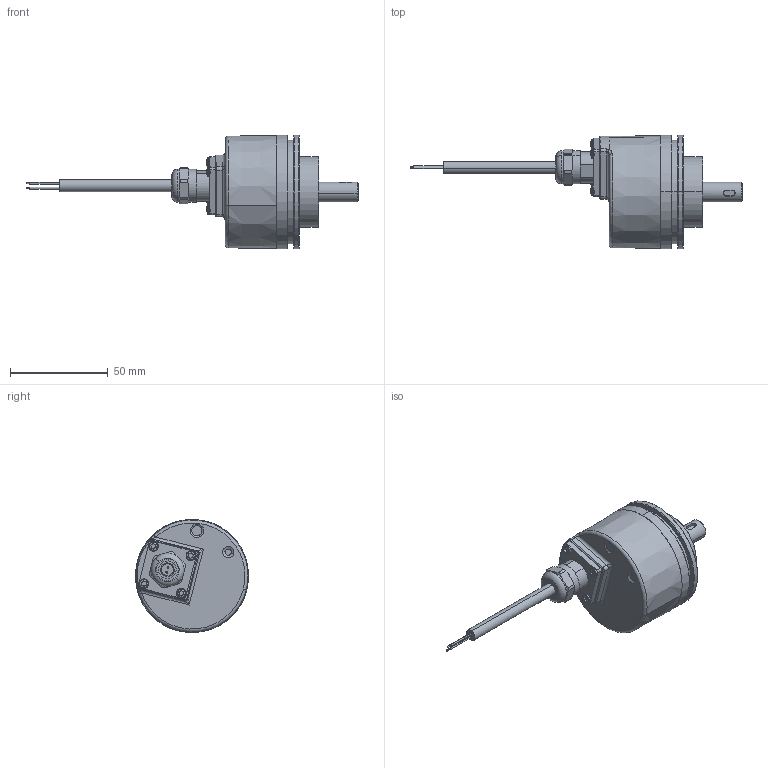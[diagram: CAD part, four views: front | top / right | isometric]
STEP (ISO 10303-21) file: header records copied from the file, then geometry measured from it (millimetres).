
FILE_DESCRIPTION (( 'STEP AP214' ), '1' );
FILE_NAME ('5814SIL.1AX1.XXXX.STEP', '2010-07-22T06:36:51', ( 'admin' ), ( 'Fritz Kübler GmbH' ), 'SwSTEP 2.0', 'SolidWorks 2009', '' );
FILE_SCHEMA (( 'AUTOMOTIVE_DESIGN' ));
Length unit declared in the file: millimetre
Products named in the file (1): 5814SIL.1AX1.XXXX
Bounding box: 170 x 58 x 58 mm (x, y, z)
Surface area: 21378.2 mm2 (no closed solid volume)
Topology: 0 solids, 12 shells, 258 faces, 642 edges, 406 vertices
Faces by surface type: plane 92, cylinder 76, cone 48, torus 28, sphere 8, bspline 6
Entity records: 11696 total; most frequent: CARTESIAN_POINT 2554, DIRECTION 1443, ORIENTED_EDGE 1188, EDGE_CURVE 640, AXIS2_PLACEMENT_3D 594, VERTEX_POINT 406, CIRCLE 341, EDGE_LOOP 294
